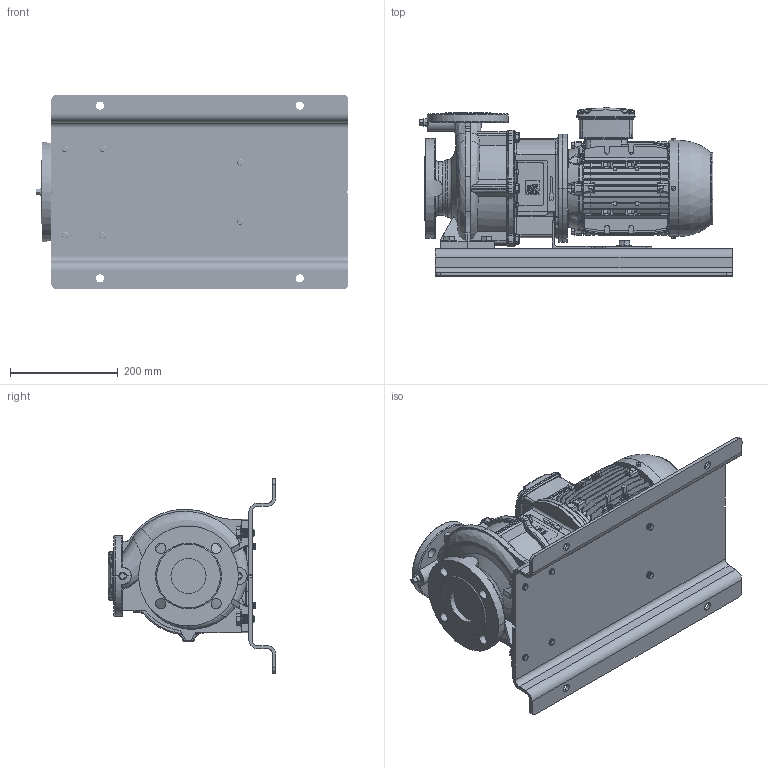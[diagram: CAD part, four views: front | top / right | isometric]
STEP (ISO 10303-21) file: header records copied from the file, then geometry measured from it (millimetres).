
FILE_DESCRIPTION (( 'STEP AP214' ), '1' );
FILE_NAME ('GSD2 40-125_1.5 & 2.2_(90SL)_W21_BP.STEP', '2024-07-29T23:56:56', ( '' ), ( '' ), 'SwSTEP 2.0', 'SolidWorks 2019', '' );
FILE_SCHEMA (( 'AUTOMOTIVE_DESIGN' ));
Length unit declared in the file: inch
Products named in the file (2): 40-125_90S_L (2)_No Baseplate; GSD2  40-125_1.5 & 2.2_(90SL)_W21_BP
Assembly tree (1 placements, depth 2):
  GSD2  40-125_1.5 & 2.2_(90SL)_W21_BP
    40-125_90S_L (2)_No Baseplate
Bounding box: 579.2 x 311 x 360 mm (x, y, z)
Volume: 12888770.4 mm3; surface area: 1517844.9 mm2
Topology: 31 solids, 35 shells, 3790 faces, 10053 edges, 6517 vertices
Faces by surface type: plane 1955, cylinder 1052, torus 313, bspline 259, cone 189, sphere 22
Entity records: 278964 total; most frequent: CARTESIAN_POINT 138296, ORIENTED_EDGE 20022, DIRECTION 17495, EDGE_CURVE 10011, VERTEX_POINT 6517, AXIS2_PLACEMENT_3D 5934, LINE 5627, VECTOR 5627
